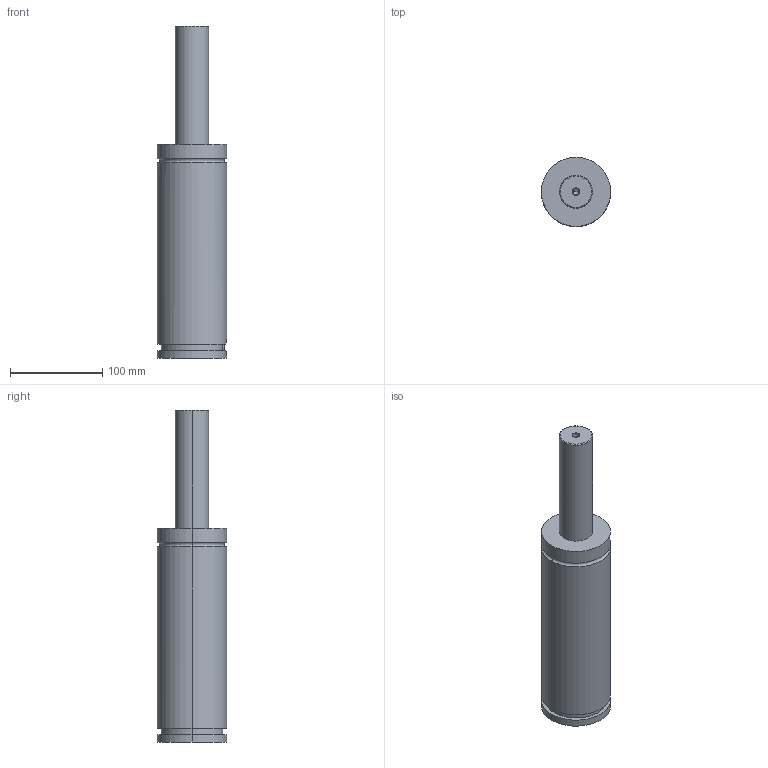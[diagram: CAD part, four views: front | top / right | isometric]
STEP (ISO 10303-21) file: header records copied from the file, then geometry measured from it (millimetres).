
FILE_DESCRIPTION(/* description */ (''),/* implementation_level */ '2;1');
FILE_NAME(/* name */ '3d_gse75-125_03853_r00.stp',/* time_stamp */ '2011-01-10T14:15:18+09:00',/* author */ ('MISUMI'),/* organization */ (''),/* preprocessor_version */ 'ST-DEVELOPER v11',/* originating_system */ 'UGS - NX 5.0',/* authorisation */ '');
FILE_SCHEMA (('CONFIG_CONTROL_DESIGN'));
Length unit declared in the file: millimetre
Products named in the file (1): 3d_gse75-125_03853_r00
Bounding box: 75 x 75 x 360 mm (x, y, z)
Volume: 1142036.7 mm3; surface area: 82597.7 mm2
Topology: 1 solids, 1 shells, 75 faces, 161 edges, 103 vertices
Faces by surface type: cylinder 34, plane 27, cone 10, torus 4
Entity records: 2145 total; most frequent: DIRECTION 393, CARTESIAN_POINT 360, ORIENTED_EDGE 318, AXIS2_PLACEMENT_3D 164, EDGE_CURVE 159, VERTEX_POINT 103, EDGE_LOOP 92, CIRCLE 88
